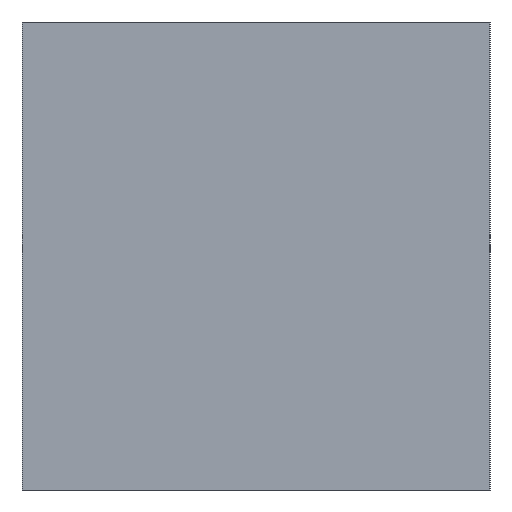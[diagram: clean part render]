
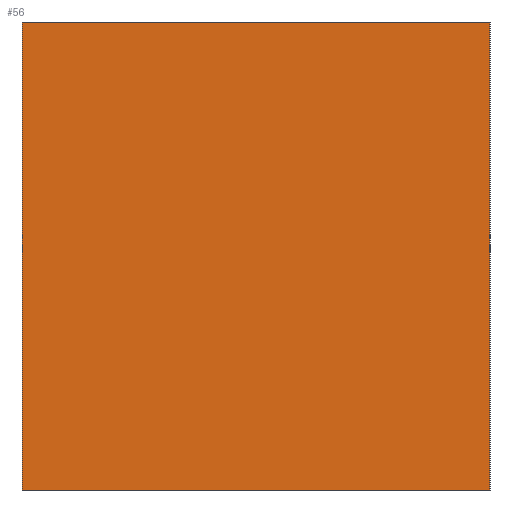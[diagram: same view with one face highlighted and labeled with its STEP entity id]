
A CAD part, front view. The second image highlights one B-rep face of the part: STEP entity #56.
In plain terms, the highlighted planar face has unit normal (0, -1, 0).
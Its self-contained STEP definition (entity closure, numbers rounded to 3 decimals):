
#4 = VERTEX_POINT ( 'NONE', #73 ) ;
#13 = CARTESIAN_POINT ( 'NONE',  ( -2., -22., 4. ) ) ;
#29 = LINE ( 'NONE', #214, #125 ) ;
#40 = DIRECTION ( 'NONE',  ( 0., 1., 0. ) ) ;
#55 = VERTEX_POINT ( 'NONE', #189 ) ;
#56 = ADVANCED_FACE ( 'NONE', ( #220 ), #371, .F. ) ;
#62 = EDGE_CURVE ( 'NONE', #267, #4, #339, .T. ) ;
#72 = ORIENTED_EDGE ( 'NONE', *, *, #347, .T. ) ;
#73 = CARTESIAN_POINT ( 'NONE',  ( 2., -22., 0. ) ) ;
#78 = DIRECTION ( 'NONE',  ( 1., 0., 0. ) ) ;
#81 = VECTOR ( 'NONE', #204, 1000. ) ;
#103 = DIRECTION ( 'NONE',  ( 0., 0., -1. ) ) ;
#125 = VECTOR ( 'NONE', #362, 1000. ) ;
#170 = LINE ( 'NONE', #264, #181 ) ;
#181 = VECTOR ( 'NONE', #78, 1000. ) ;
#189 = CARTESIAN_POINT ( 'NONE',  ( -2., -22., 4. ) ) ;
#192 = VERTEX_POINT ( 'NONE', #375 ) ;
#201 = EDGE_CURVE ( 'NONE', #55, #267, #170, .T. ) ;
#204 = DIRECTION ( 'NONE',  ( 0., 0., -1. ) ) ;
#210 = VECTOR ( 'NONE', #103, 1000. ) ;
#212 = EDGE_LOOP ( 'NONE', ( #366, #308, #245, #72 ) ) ;
#214 = CARTESIAN_POINT ( 'NONE',  ( -2., -22., 0. ) ) ;
#220 = FACE_OUTER_BOUND ( 'NONE', #212, .T. ) ;
#243 = AXIS2_PLACEMENT_3D ( 'NONE', #13, #40, #253 ) ;
#245 = ORIENTED_EDGE ( 'NONE', *, *, #201, .F. ) ;
#253 = DIRECTION ( 'NONE',  ( 0., 0., 1. ) ) ;
#258 = CARTESIAN_POINT ( 'NONE',  ( 2., -22., 4. ) ) ;
#264 = CARTESIAN_POINT ( 'NONE',  ( -2., -22., 4. ) ) ;
#267 = VERTEX_POINT ( 'NONE', #258 ) ;
#275 = CARTESIAN_POINT ( 'NONE',  ( -2., -22., 4. ) ) ;
#308 = ORIENTED_EDGE ( 'NONE', *, *, #62, .F. ) ;
#316 = CARTESIAN_POINT ( 'NONE',  ( 2., -22., 4. ) ) ;
#339 = LINE ( 'NONE', #316, #210 ) ;
#343 = EDGE_CURVE ( 'NONE', #192, #4, #29, .T. ) ;
#347 = EDGE_CURVE ( 'NONE', #55, #192, #354, .T. ) ;
#354 = LINE ( 'NONE', #275, #81 ) ;
#362 = DIRECTION ( 'NONE',  ( 1., 0., 0. ) ) ;
#366 = ORIENTED_EDGE ( 'NONE', *, *, #343, .T. ) ;
#371 = PLANE ( 'NONE',  #243 ) ;
#375 = CARTESIAN_POINT ( 'NONE',  ( -2., -22., 0. ) ) ;
